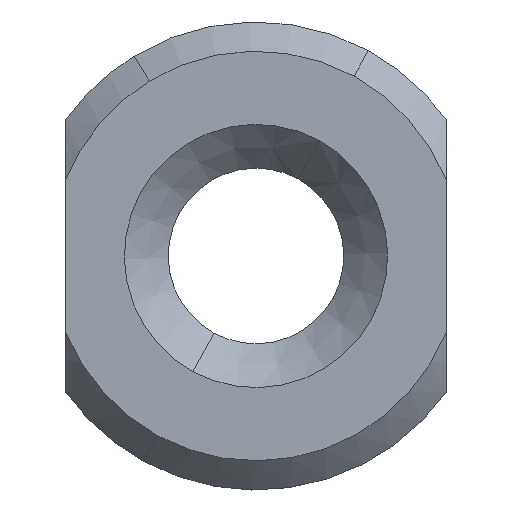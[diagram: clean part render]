
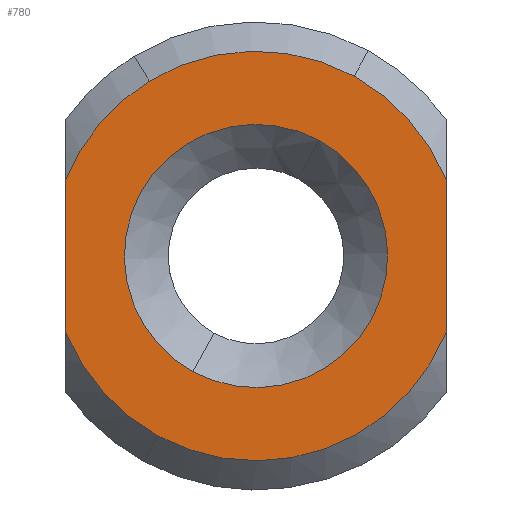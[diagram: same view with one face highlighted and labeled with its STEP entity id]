
A CAD part, front view. The second image highlights one B-rep face of the part: STEP entity #780.
In plain terms, the highlighted planar face has unit normal (0, -1, 0).
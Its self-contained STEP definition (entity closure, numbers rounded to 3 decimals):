
#620=CARTESIAN_POINT('Axis2P3D Location',(0.,0.,0.)) ;
#624=CARTESIAN_POINT('Vertex',(2.157,0.,3.949)) ;
#626=CARTESIAN_POINT('Vertex',(-2.157,0.,-3.949)) ;
#701=CARTESIAN_POINT('Axis2P3D Location',(0.,0.,0.)) ;
#713=CARTESIAN_POINT('Axis2P3D Location',(0.,0.,4.5)) ;
#718=CARTESIAN_POINT('Line Origine',(6.5,0.,0.)) ;
#722=CARTESIAN_POINT('Vertex',(6.5,0.,-2.598)) ;
#724=CARTESIAN_POINT('Vertex',(6.5,0.,2.598)) ;
#727=CARTESIAN_POINT('Axis2P3D Location',(0.,0.,0.)) ;
#731=CARTESIAN_POINT('Vertex',(3.356,0.,6.143)) ;
#734=CARTESIAN_POINT('Axis2P3D Location',(0.,0.,0.)) ;
#738=CARTESIAN_POINT('Vertex',(-3.642,0.,5.978)) ;
#741=CARTESIAN_POINT('Axis2P3D Location',(0.,0.,0.)) ;
#745=CARTESIAN_POINT('Vertex',(-6.5,0.,2.598)) ;
#748=CARTESIAN_POINT('Line Origine',(-6.5,0.,0.)) ;
#752=CARTESIAN_POINT('Vertex',(-6.5,0.,-2.598)) ;
#755=CARTESIAN_POINT('Axis2P3D Location',(0.,0.,0.)) ;
#759=CARTESIAN_POINT('Vertex',(-3.356,0.,-6.143)) ;
#762=CARTESIAN_POINT('Axis2P3D Location',(0.,0.,0.)) ;
#720=VECTOR('Line Direction',#719,1.) ;
#750=VECTOR('Line Direction',#749,1.) ;
#621=DIRECTION('Axis2P3D Direction',(-0.,1.,0.)) ;
#702=DIRECTION('Axis2P3D Direction',(-0.,1.,0.)) ;
#714=DIRECTION('Axis2P3D Direction',(-0.,1.,0.)) ;
#715=DIRECTION('Axis2P3D XDirection',(1.,0.,0.)) ;
#719=DIRECTION('Vector Direction',(0.,0.,-1.)) ;
#728=DIRECTION('Axis2P3D Direction',(-0.,1.,0.)) ;
#735=DIRECTION('Axis2P3D Direction',(-0.,1.,0.)) ;
#742=DIRECTION('Axis2P3D Direction',(-0.,1.,0.)) ;
#749=DIRECTION('Vector Direction',(0.,0.,-1.)) ;
#756=DIRECTION('Axis2P3D Direction',(-0.,1.,0.)) ;
#763=DIRECTION('Axis2P3D Direction',(-0.,1.,0.)) ;
#622=AXIS2_PLACEMENT_3D('Circle Axis2P3D',#620,#621,$) ;
#703=AXIS2_PLACEMENT_3D('Circle Axis2P3D',#701,#702,$) ;
#716=AXIS2_PLACEMENT_3D('Plane Axis2P3D',#713,#714,#715) ;
#729=AXIS2_PLACEMENT_3D('Circle Axis2P3D',#727,#728,$) ;
#736=AXIS2_PLACEMENT_3D('Circle Axis2P3D',#734,#735,$) ;
#743=AXIS2_PLACEMENT_3D('Circle Axis2P3D',#741,#742,$) ;
#757=AXIS2_PLACEMENT_3D('Circle Axis2P3D',#755,#756,$) ;
#764=AXIS2_PLACEMENT_3D('Circle Axis2P3D',#762,#763,$) ;
#721=LINE('Line',#718,#720) ;
#751=LINE('Line',#748,#750) ;
#623=CIRCLE('generated circle',#622,4.5) ;
#704=CIRCLE('generated circle',#703,4.5) ;
#730=CIRCLE('generated circle',#729,7.) ;
#737=CIRCLE('generated circle',#736,7.) ;
#744=CIRCLE('generated circle',#743,7.) ;
#758=CIRCLE('generated circle',#757,7.) ;
#765=CIRCLE('generated circle',#764,7.) ;
#717=PLANE('',#716) ;
#779=FACE_BOUND('',#776,.T.) ;
#628=EDGE_CURVE('',#625,#627,#623,.T.) ;
#705=EDGE_CURVE('',#627,#625,#704,.T.) ;
#726=EDGE_CURVE('',#723,#725,#721,.F.) ;
#733=EDGE_CURVE('',#732,#725,#730,.T.) ;
#740=EDGE_CURVE('',#739,#732,#737,.T.) ;
#747=EDGE_CURVE('',#746,#739,#744,.T.) ;
#754=EDGE_CURVE('',#746,#753,#751,.T.) ;
#761=EDGE_CURVE('',#760,#753,#758,.T.) ;
#766=EDGE_CURVE('',#723,#760,#765,.T.) ;
#768=ORIENTED_EDGE('',*,*,#726,.T.) ;
#769=ORIENTED_EDGE('',*,*,#733,.F.) ;
#770=ORIENTED_EDGE('',*,*,#740,.F.) ;
#771=ORIENTED_EDGE('',*,*,#747,.F.) ;
#772=ORIENTED_EDGE('',*,*,#754,.T.) ;
#773=ORIENTED_EDGE('',*,*,#761,.F.) ;
#774=ORIENTED_EDGE('',*,*,#766,.F.) ;
#777=ORIENTED_EDGE('',*,*,#705,.T.) ;
#778=ORIENTED_EDGE('',*,*,#628,.T.) ;
#767=EDGE_LOOP('',(#768,#769,#770,#771,#772,#773,#774)) ;
#776=EDGE_LOOP('',(#777,#778)) ;
#625=VERTEX_POINT('',#624) ;
#627=VERTEX_POINT('',#626) ;
#723=VERTEX_POINT('',#722) ;
#725=VERTEX_POINT('',#724) ;
#732=VERTEX_POINT('',#731) ;
#739=VERTEX_POINT('',#738) ;
#746=VERTEX_POINT('',#745) ;
#753=VERTEX_POINT('',#752) ;
#760=VERTEX_POINT('',#759) ;
#780=ADVANCED_FACE('Body.2',(#775,#779),#717,.F.) ;
#775=FACE_OUTER_BOUND('',#767,.T.) ;
